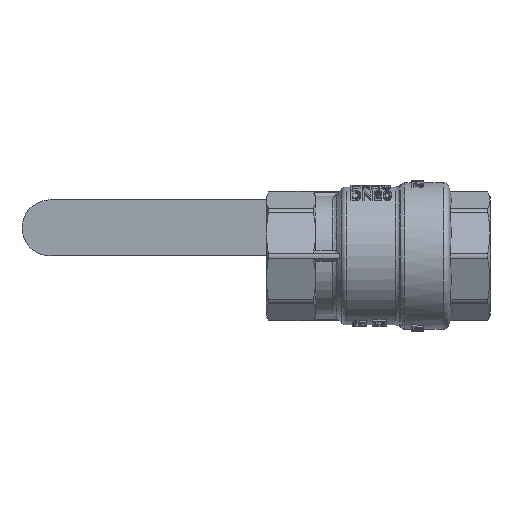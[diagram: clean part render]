
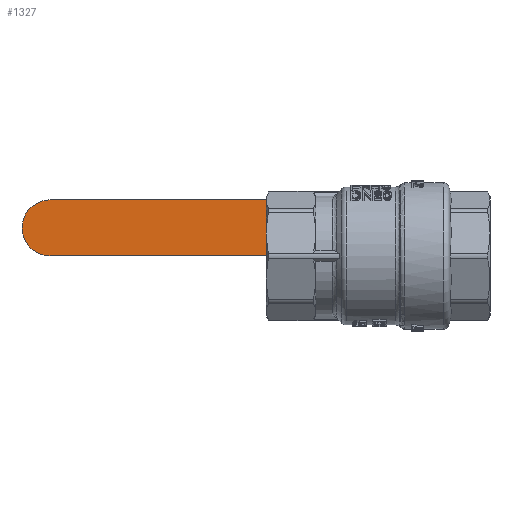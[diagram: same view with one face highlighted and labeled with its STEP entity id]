
A CAD part, front view. The second image highlights one B-rep face of the part: STEP entity #1327.
In plain terms, the highlighted planar face has unit normal (0, -1, 0).
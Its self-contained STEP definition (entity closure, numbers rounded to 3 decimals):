
#1327=ADVANCED_FACE('',(#10730),#10732,.F.);
#10730=FACE_BOUND('',#10731,.T.);
#10731=EDGE_LOOP('',(#19948,#19949,#19950,#19951));
#10732=PLANE('',#10733);
#10733=AXIS2_PLACEMENT_3D('',#10734,#10735,#10736);
#10734=CARTESIAN_POINT('',(3.975,43.427,0.));
#10735=DIRECTION('',(0.,1.,0.));
#10736=DIRECTION('',(-1.,0.,0.));
#19948=ORIENTED_EDGE('',*,*,#24969,.F.);
#19949=ORIENTED_EDGE('',*,*,#24901,.F.);
#19950=ORIENTED_EDGE('',*,*,#24970,.F.);
#19951=ORIENTED_EDGE('',*,*,#24971,.F.);
#24901=EDGE_CURVE('',#31743,#31744,#31745,.T.);
#24969=EDGE_CURVE('',#31744,#31864,#31865,.T.);
#24970=EDGE_CURVE('',#31866,#31743,#31867,.T.);
#24971=EDGE_CURVE('',#31864,#31866,#31868,.F.);
#31743=VERTEX_POINT('',#51438);
#31744=VERTEX_POINT('',#51439);
#31745=LINE('',#51440,#51441);
#31864=VERTEX_POINT('',#51928);
#31865=LINE('',#51929,#51930);
#31866=VERTEX_POINT('',#51932);
#31867=LINE('',#51933,#51934);
#31868=CIRCLE('',#51936,7.25);
#51438=CARTESIAN_POINT('',(-28.698,43.427,14.5));
#51439=CARTESIAN_POINT('',(-28.698,43.427,0.));
#51440=CARTESIAN_POINT('',(-28.698,43.427,14.5));
#51441=VECTOR('',#51442,1.);
#51442=DIRECTION('',(0.,0.,-1.));
#51928=CARTESIAN_POINT('',(-84.768,43.427,0.));
#51929=CARTESIAN_POINT('',(-28.698,43.427,0.));
#51930=VECTOR('',#51931,1.);
#51931=DIRECTION('',(-1.,0.,0.));
#51932=CARTESIAN_POINT('',(-84.768,43.427,14.5));
#51933=CARTESIAN_POINT('',(-84.768,43.427,14.5));
#51934=VECTOR('',#51935,1.);
#51935=DIRECTION('',(1.,0.,0.));
#51936=AXIS2_PLACEMENT_3D('',#51937,#51938,#51939);
#51937=CARTESIAN_POINT('',(-84.768,43.427,7.25));
#51938=DIRECTION('',(0.,-1.,0.));
#51939=DIRECTION('',(0.,0.,1.));
